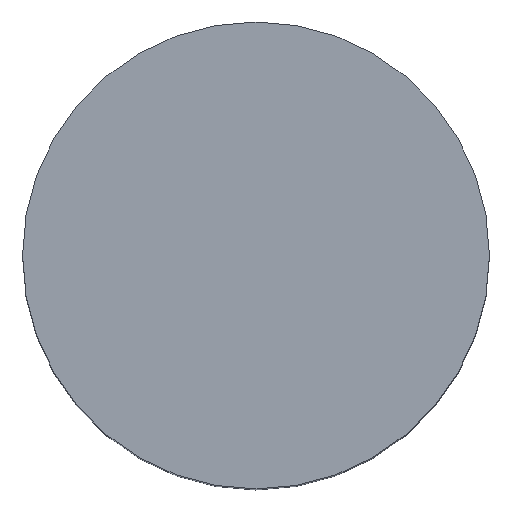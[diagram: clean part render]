
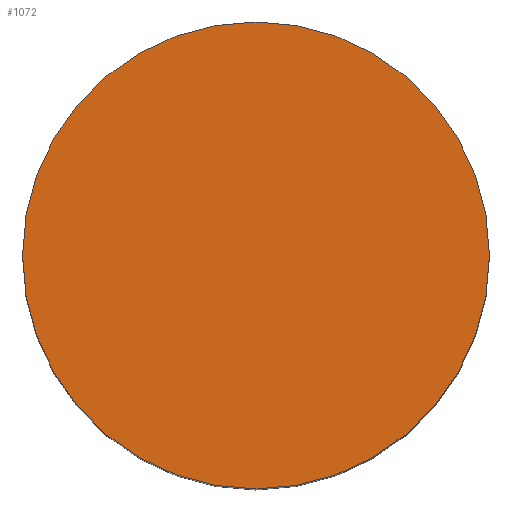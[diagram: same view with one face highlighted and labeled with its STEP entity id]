
A CAD part, top view. The second image highlights one B-rep face of the part: STEP entity #1072.
In plain terms, the highlighted planar face has unit normal (0, 0, 1).
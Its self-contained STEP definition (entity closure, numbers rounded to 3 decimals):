
#586 = ORIENTED_EDGE ( 'NONE', *, *, #1004, .T. ) ;
#1001 = EDGE_LOOP ( 'NONE', ( #586, #1071 ) ) ;
#1004 = EDGE_CURVE ( 'NONE', #4120, #4112, #7745, .T. ) ;
#1071 = ORIENTED_EDGE ( 'NONE', *, *, #4127, .T. ) ;
#1072 = ADVANCED_FACE ( 'NONE', ( #8012 ), #8011, .T. ) ;
#2212 = CARTESIAN_POINT ( 'NONE',  ( 15.875, 0., 67.056 ) ) ;
#2213 = CARTESIAN_POINT ( 'NONE',  ( 0., 0., 67.056 ) ) ;
#2214 = AXIS2_PLACEMENT_3D ( 'NONE', #2213, #2272, #2271 ) ;
#2215 = CIRCLE ( 'NONE', #2214, 15.875 ) ;
#2233 = CARTESIAN_POINT ( 'NONE',  ( -15.875, 0., 67.056 ) ) ;
#2271 = DIRECTION ( 'NONE',  ( 1., 0., 0. ) ) ;
#2272 = DIRECTION ( 'NONE',  ( 0., 0., 1. ) ) ;
#4112 = VERTEX_POINT ( 'NONE', #2212 ) ;
#4120 = VERTEX_POINT ( 'NONE', #2233 ) ;
#4127 = EDGE_CURVE ( 'NONE', #4112, #4120, #2215, .T. ) ;
#7741 = DIRECTION ( 'NONE',  ( 1., 0., 0. ) ) ;
#7742 = DIRECTION ( 'NONE',  ( 0., 0., 1. ) ) ;
#7743 = CARTESIAN_POINT ( 'NONE',  ( 0., 0., 67.056 ) ) ;
#7744 = AXIS2_PLACEMENT_3D ( 'NONE', #7743, #7742, #7741 ) ;
#7745 = CIRCLE ( 'NONE', #7744, 15.875 ) ;
#8007 = DIRECTION ( 'NONE',  ( 1., 0., 0. ) ) ;
#8008 = DIRECTION ( 'NONE',  ( 0., 0., 1. ) ) ;
#8009 = CARTESIAN_POINT ( 'NONE',  ( 0., 0., 67.056 ) ) ;
#8010 = AXIS2_PLACEMENT_3D ( 'NONE', #8009, #8008, #8007 ) ;
#8011 = PLANE ( 'NONE',  #8010 ) ;
#8012 = FACE_OUTER_BOUND ( 'NONE', #1001, .T. ) ;
